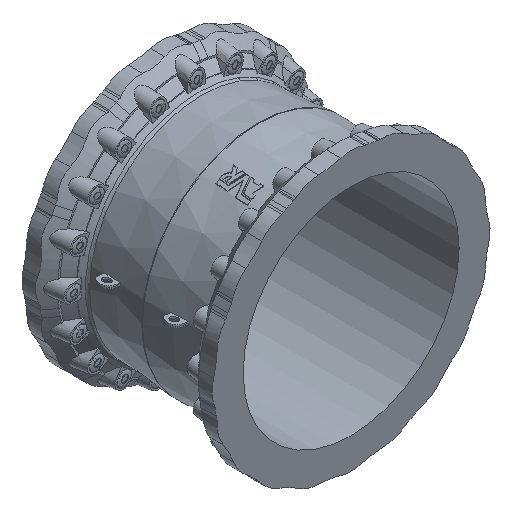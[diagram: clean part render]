
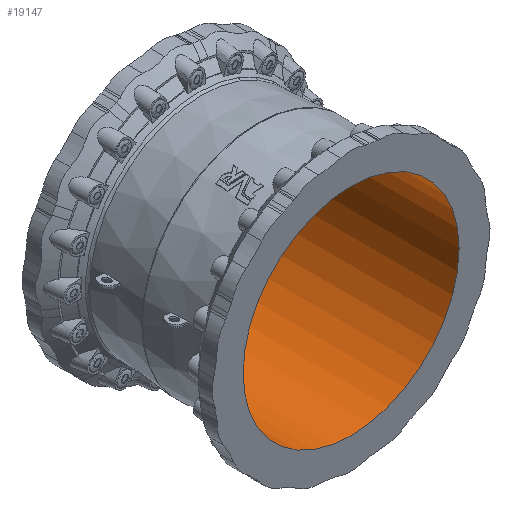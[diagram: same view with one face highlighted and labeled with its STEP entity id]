
A CAD part, isometric view. The second image highlights one B-rep face of the part: STEP entity #19147.
In plain terms, the highlighted cylindrical face has radius 425 mm (diameter 850 mm), a full revolution.
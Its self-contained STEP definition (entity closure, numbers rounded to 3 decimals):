
#3777 = AXIS2_PLACEMENT_3D ( 'NONE', #17871, #37288, #11733 ) ;
#4275 = ORIENTED_EDGE ( 'NONE', *, *, #16060, .T. ) ;
#4978 = FACE_OUTER_BOUND ( 'NONE', #33964, .T. ) ;
#11472 = CIRCLE ( 'NONE', #33705, 425. ) ;
#11733 = DIRECTION ( 'NONE',  ( 0., 0., -1. ) ) ;
#11991 = DIRECTION ( 'NONE',  ( -1., 0., 0. ) ) ;
#12085 = CARTESIAN_POINT ( 'NONE',  ( 0., 1935.72, 0. ) ) ;
#12223 = CARTESIAN_POINT ( 'NONE',  ( -425., 733.639, 0. ) ) ;
#15159 = DIRECTION ( 'NONE',  ( 0., -1., 0. ) ) ;
#15553 = AXIS2_PLACEMENT_3D ( 'NONE', #12085, #24956, #37845 ) ;
#16060 = EDGE_CURVE ( 'NONE', #28050, #28050, #38821, .T. ) ;
#17324 = ORIENTED_EDGE ( 'NONE', *, *, #21956, .F. ) ;
#17871 = CARTESIAN_POINT ( 'NONE',  ( 0., -14.889, 0. ) ) ;
#19147 = ADVANCED_FACE ( 'NONE', ( #4978, #33889 ), #41636, .F. ) ;
#21956 = EDGE_CURVE ( 'NONE', #31026, #31026, #11472, .T. ) ;
#24956 = DIRECTION ( 'NONE',  ( 0., -1., 0. ) ) ;
#28050 = VERTEX_POINT ( 'NONE', #40929 ) ;
#31026 = VERTEX_POINT ( 'NONE', #12223 ) ;
#33705 = AXIS2_PLACEMENT_3D ( 'NONE', #40900, #15159, #11991 ) ;
#33889 = FACE_OUTER_BOUND ( 'NONE', #36540, .T. ) ;
#33964 = EDGE_LOOP ( 'NONE', ( #4275 ) ) ;
#36540 = EDGE_LOOP ( 'NONE', ( #17324 ) ) ;
#37288 = DIRECTION ( 'NONE',  ( 0., -1., 0. ) ) ;
#37845 = DIRECTION ( 'NONE',  ( 0., 0., -1. ) ) ;
#38821 = CIRCLE ( 'NONE', #3777, 425. ) ;
#40900 = CARTESIAN_POINT ( 'NONE',  ( 0., 733.639, 0. ) ) ;
#40929 = CARTESIAN_POINT ( 'NONE',  ( 0., -14.889, -425. ) ) ;
#41636 = CYLINDRICAL_SURFACE ( 'NONE', #15553, 425. ) ;
